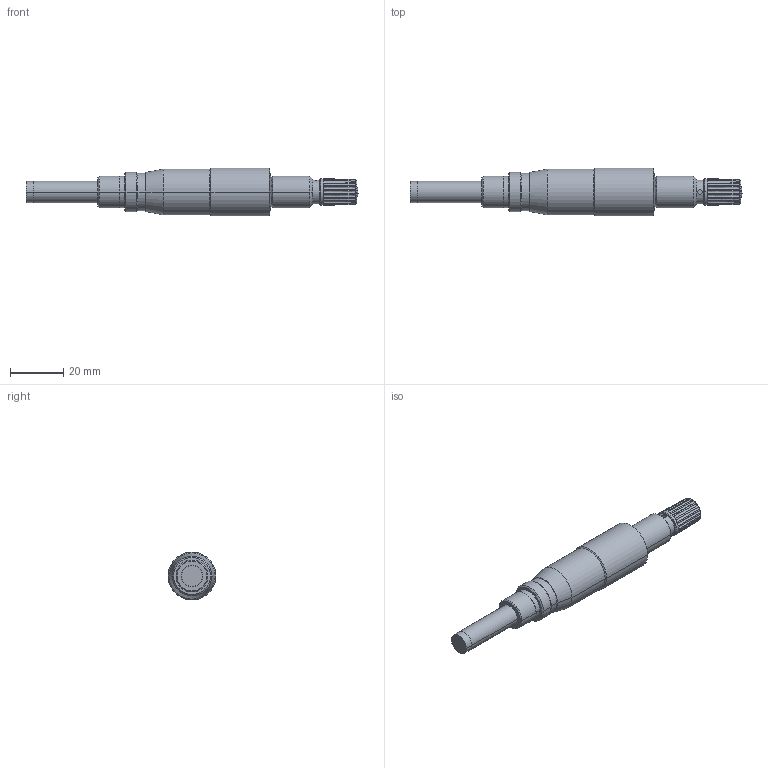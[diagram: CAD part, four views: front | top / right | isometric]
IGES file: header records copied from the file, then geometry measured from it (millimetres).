
Start section: Elysium IGES Interface
Global section: file name: 68HR:\01_商品設計部\01_MK外ﾃｰﾏ(U)\15_MH_3D\IGESﾌｧｲﾙ\153-201_MHK-25R.igs; native system: Creo Elements/Direct Modeling 18.1B  29-Sep-2012; preprocessor: Creo Element/Direct IGES_3D V2.2; author: Unknown; organization: Unknown; date: 20140624.090228; units: millimetre
Bounding box: 124.55 x 18 x 18 mm (x, y, z)
Volume: 17804.7 mm3; surface area: 5719.9 mm2
Topology: 1 solids, 1 shells, 121 faces, 299 edges, 190 vertices
Faces by surface type: bspline 121
